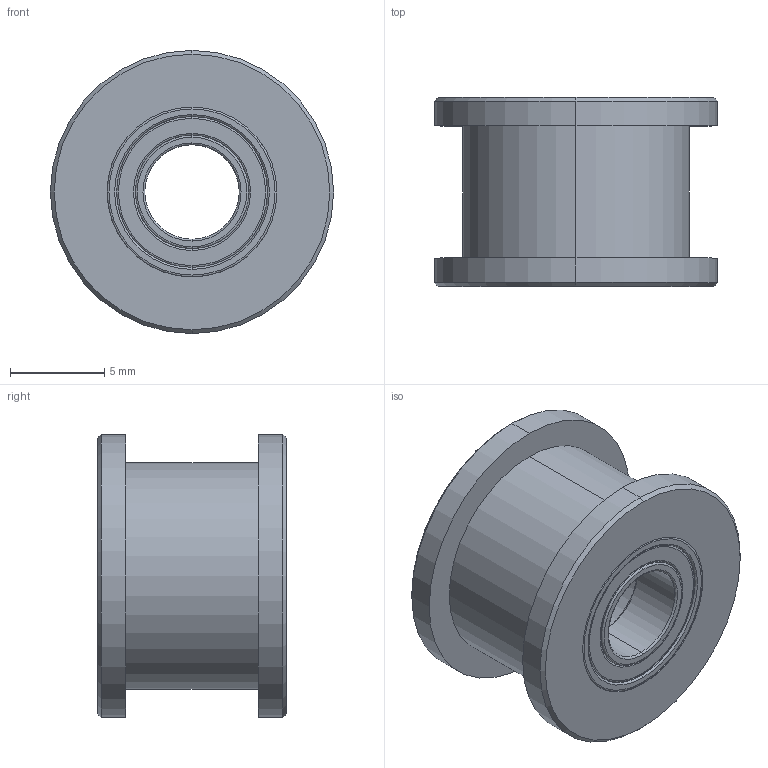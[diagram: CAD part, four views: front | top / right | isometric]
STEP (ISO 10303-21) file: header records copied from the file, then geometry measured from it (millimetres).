
FILE_DESCRIPTION (( 'STEP AP214' ), '1' );
FILE_NAME ('GT2_Idler_Smooth_6mm.STEP', '2026-08-22T12:14:19', ( '' ), ( '' ), 'SwSTEP 2.0', 'SolidWorks 2026', '' );
FILE_SCHEMA (( 'AUTOMOTIVE_DESIGN' ));
Length unit declared in the file: millimetre
Products named in the file (5): Ball bearing (5x9x3)mm002.step; GT2_Idler_20S.step; Ball bearing (5x9x3)mm001.step; GT2_Idler_Smooth_6mm.step; GT2_Idler_Smooth_6mm
Assembly tree (4 placements, depth 3):
  GT2_Idler_Smooth_6mm
    GT2_Idler_Smooth_6mm.step
      Ball bearing (5x9x3)mm001.step
      Ball bearing (5x9x3)mm002.step
      GT2_Idler_20S.step
Bounding box: 15 x 10 x 15 mm (x, y, z)
Volume: 1038.3 mm3; surface area: 1525.4 mm2
Topology: 3 solids, 3 shells, 106 faces, 212 edges, 124 vertices
Faces by surface type: bspline 48, cylinder 36, plane 18, cone 4
Entity records: 3431 total; most frequent: CARTESIAN_POINT 1314, ORIENTED_EDGE 424, DIRECTION 420, EDGE_CURVE 212, AXIS2_PLACEMENT_3D 190, CIRCLE 124, EDGE_LOOP 124, VERTEX_POINT 124
